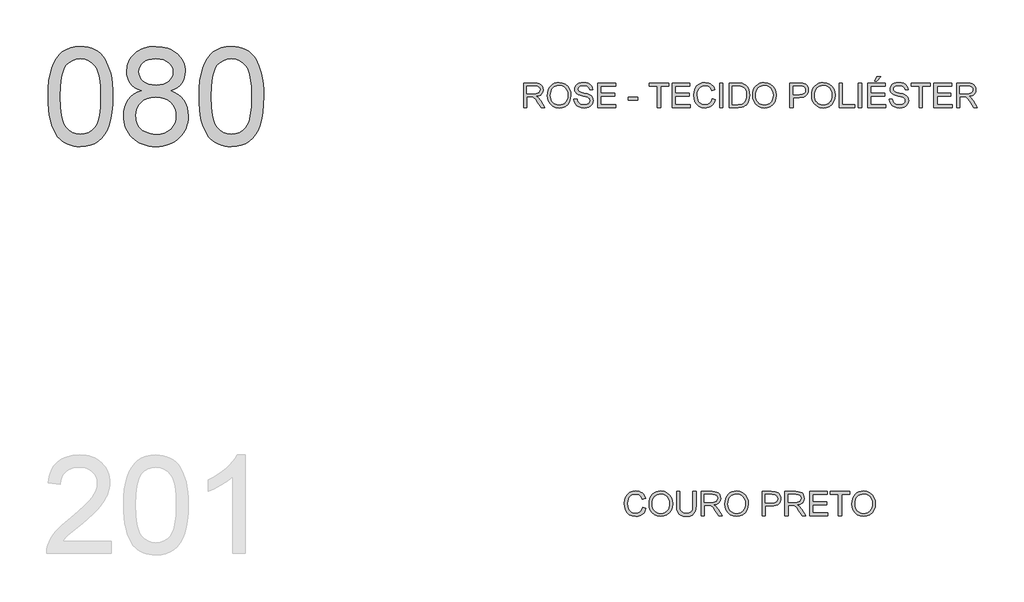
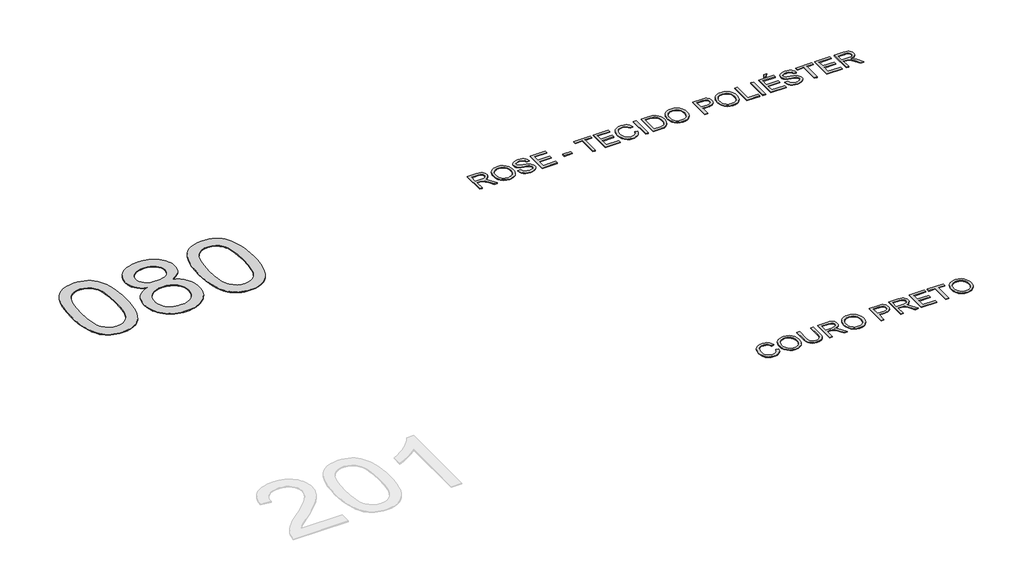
# One storey, part 4 of 39: 3 proxies.
"""IFC4 building model written with IfcOpenShell, lengths in millimetres."""

from ifc_helpers import new_model, si_unit, origin, origin_with_axes, place, context, project, spatial, polyline, outline, extrude, element, save

model = new_model("IFC4")

# Units and contexts
model_context = context("Model", 3, world=origin())
ifc_project = project(units=[si_unit("LENGTHUNIT", "METRE", prefix="MILLI")], contexts=[model_context])

# Site, building, storey
site = spatial("IfcSite", under=ifc_project)
building = spatial("IfcBuilding", under=site)
storey = spatial("IfcBuildingStorey", under=building, Name="Marelli - Linha PROFIT - Planta Baixa", Elevation=0.0)

# Proxies
placement = place(None, origin())
element("IfcBuildingElementProxy", 1, Name="1200mm Arial", ObjectType="1200mm Arial", at=placement, inside=storey, context=model_context, shape_type="SweptSolid", body=[
    extrude(outline(polyline([(-25181.1313792, -139395.792664), (-25178.3630672, -139294.4319773), (-25170.0581311, -139202.8385576), (-25156.2165711, -139121.0124048), (-25136.838387, -139048.953519), (-25112.0063523, -138986.073289), (-25081.8032405, -138931.7831035), (-25046.2290516, -138886.0829627), (-25005.2837855, -138848.9728664), (-24958.8294866, -138820.2596767), (-24906.728199, -138799.7502555), (-24848.9799228, -138787.4446027), (-24785.584658, -138783.3427185), (-24737.9439396, -138785.7707396), (-24692.7312424, -138793.0548031), (-24649.9465664, -138805.194909), (-24609.5899115, -138822.1910572), (-24572.6361651, -138843.7581391), (-24540.0602144, -138869.6110463), (-24511.8620595, -138899.7497788), (-24488.0417003, -138934.1743365), (-24467.4035204, -138972.7467637), (-24448.7519032, -139015.3291046), (-24417.4083572, -139112.5235278), (-24405.4337983, -139169.6831928), (-24396.8805419, -139235.9479371), (-24391.7485881, -139311.3177609), (-24390.0379368, -139395.792664), (-24392.7786576, -139496.5095573), (-24401.0008202, -139587.6431245), (-24414.7044246, -139669.1933658), (-24433.8894706, -139741.1602811), (-24458.5283672, -139804.0681023), (-24488.5935233, -139858.4410612), (-24524.0849388, -139904.2791578), (-24565.0026137, -139941.5823921), (-24611.5120949, -139970.4887199), (-24663.7789294, -139991.1360968), (-24721.8031171, -140003.524523), (-24785.584658, -140007.6539984), (-24828.2589694, -140005.8605737), (-24868.5788361, -140000.4802995), (-24906.544258, -139991.5131759), (-24942.1552351, -139978.9592028), (-24975.4117675, -139962.8183803), (-25006.3138551, -139943.0907083), (-25034.8614979, -139919.7761868), (-25061.054696, -139892.8748159), (-25089.1976686, -139850.2786794), (-25113.5882449, -139802.0999336), (-25134.2264248, -139748.3385785), (-25151.1122084, -139688.9946142), (-25164.2455956, -139624.0680406), (-25173.6265865, -139553.5588577), (-25179.255181, -139477.4670655), (-25181.1313792, -139395.792664)]), holes=[polyline([(-25030.446914, -139395.4983584), (-25026.03233, -139526.4919399), (-25012.7885782, -139632.5247279), (-25002.8557643, -139676.1808245), (-24990.7156585, -139713.5967226), (-24976.3682607, -139744.7724225), (-24959.8135709, -139769.7079239), (-24922.4367602, -139807.884878), (-24880.9396711, -139835.1541309), (-24835.3223037, -139851.5156826), (-24785.584658, -139856.9695332), (-24735.8470122, -139851.4972885), (-24690.2296448, -139835.0805545), (-24648.7325558, -139807.7193311), (-24611.3557451, -139769.4136183), (-24594.8010553, -139744.418336), (-24580.4536575, -139713.2104465), (-24568.3135516, -139675.7899498), (-24558.3807378, -139632.1568459), (-24545.1369859, -139526.2528166), (-24540.722402, -139395.4983584), (-24544.9898331, -139267.9720648), (-24557.7921266, -139163.8062779), (-24567.3938467, -139120.4835744), (-24579.1292823, -139083.0009976), (-24592.9984335, -139051.3585475), (-24609.0013003, -139025.5562241), (-24645.7527116, -138985.5122689), (-24687.7280473, -138956.9094438), (-24734.9273073, -138939.7477487), (-24787.3504916, -138934.0271837), (-24836.8306199, -138939.067167), (-24881.6754351, -138954.187117), (-24921.8849372, -138979.3870337), (-24957.4591261, -139014.666917), (-24974.5656389, -139043.2145599), (-24989.3912833, -139077.2068562), (-25001.9360594, -139116.6438061), (-25012.199967, -139161.5254095), (-25025.8851772, -139267.6225769), (-25030.446914, -139395.4983584)])]), origin_with_axes(), (0.0, 0.0, 1.0), 10.0),
    extrude(outline(polyline([(-24038.637055, -139324.8650154), (-24081.9827511, -139306.7652212), (-24119.3135765, -139285.1337599), (-24150.6295314, -139259.9706314), (-24175.9306156, -139231.2758358), (-24195.4375584, -139199.3252845), (-24209.3710889, -139164.3948891), (-24217.7312073, -139126.4846495), (-24220.5179134, -139085.5945657), (-24214.4478605, -139024.1398784), (-24206.8602943, -138995.3301197), (-24196.2377017, -138967.7987509), (-24182.5800826, -138941.545772), (-24165.8874371, -138916.571183), (-24123.3970667, -138870.4571749), (-24098.109778, -138850.0397242), (-24070.8083355, -138832.3446002), (-24041.492739, -138817.371803), (-24010.1629886, -138805.1213326), (-23941.461026, -138788.787372), (-23864.7024477, -138783.3427185), (-23787.5759874, -138788.9161307), (-23718.35899, -138805.6363674), (-23686.7165399, -138818.1765449), (-23657.0514555, -138833.5034285), (-23629.3637368, -138851.6170182), (-23603.6533839, -138872.5173141), (-23560.3904613, -138919.5326331), (-23543.3943131, -138944.8613085), (-23529.4883737, -138971.4039944), (-23518.672643, -138999.1606909), (-23510.9471211, -139028.1313981), (-23506.311808, -139058.3161158), (-23504.7667036, -139089.7148441), (-23507.5166215, -139129.160991), (-23515.7663752, -139165.9767817), (-23529.5159648, -139200.1622161), (-23548.7653902, -139231.7172942), (-23573.6066219, -139260.2189518), (-23604.1316305, -139285.2441245), (-23640.3404159, -139306.7928124), (-23682.2329781, -139324.8650154), (-23632.7068645, -139345.9354566), (-23589.4899271, -139372.6528865), (-23552.5821659, -139405.0173051), (-23521.983581, -139443.0287122), (-23497.9700837, -139485.8409794), (-23480.8175857, -139532.607978), (-23470.5260869, -139583.3297081), (-23467.0955873, -139638.0061697), (-23468.7970415, -139676.3670647), (-23473.9014042, -139713.1644613), (-23482.4086753, -139748.3983594), (-23494.3188549, -139782.068759), (-23509.631943, -139814.1756601), (-23528.3479395, -139844.7190628), (-23550.4668444, -139873.6989669), (-23575.9886578, -139901.1153726), (-23604.2879803, -139926.085363), (-23634.7394125, -139947.7260214), (-23667.3429543, -139966.0373477), (-23702.0986058, -139981.019342), (-23739.006367, -139992.6720042), (-23778.0662378, -140000.9953343), (-23819.2782183, -140005.9893324), (-23862.6423085, -140007.6539984), (-23906.0063987, -140005.9824346), (-23947.2183792, -140000.9677432), (-23986.27825, -139992.6099241), (-24023.1860112, -139980.9089774), (-24057.9416627, -139965.864903), (-24090.5452045, -139947.4777011), (-24120.9966367, -139925.7473715), (-24149.2959591, -139900.6739142), (-24174.8177725, -139873.1034579), (-24196.9366775, -139843.8821312), (-24215.652674, -139813.009934), (-24230.9657621, -139780.4868664), (-24242.8759417, -139746.3129283), (-24251.3832128, -139710.4881198), (-24256.4875755, -139673.0124408), (-24258.1890297, -139633.8858913), (-24254.6205744, -139576.7170293), (-24243.9152083, -139524.4042096), (-24226.0729315, -139476.9474322), (-24201.0937441, -139434.3466971), (-24169.5294689, -139397.3745566), (-24131.931929, -139366.8035628), (-24088.3011243, -139342.6337157), (-24038.637055, -139324.8650154)]), holes=[polyline([(-24069.8334482, -139090.0091496), (-24066.4949191, -139124.553269), (-24056.4793317, -139155.7864504), (-24039.7866862, -139183.7086938), (-24016.4169825, -139208.3199993), (-23986.6645261, -139228.4063562), (-23950.8236227, -139242.753754), (-23908.8942723, -139251.3621927), (-23860.8764749, -139254.2316723), (-23814.0450969, -139251.3805868), (-23773.0262545, -139242.8273304), (-23737.8199475, -139228.5719031), (-23708.4261761, -139208.6143049), (-23685.2496104, -139184.5180342), (-23668.6949206, -139157.8465896), (-23658.7621068, -139128.5999709), (-23655.4511688, -139096.7781784), (-23658.8724714, -139063.714784), (-23669.136379, -139033.3921106), (-23686.2428918, -139005.810158), (-23710.1920097, -138980.9689263), (-23740.2479687, -138960.4319139), (-23775.6750048, -138945.7626193), (-23816.4731181, -138936.9610426), (-23862.6423085, -138934.0271837), (-23909.1701838, -138936.8966633), (-23950.1614351, -138945.5051019), (-23985.6160624, -138959.8524998), (-24015.5340657, -138979.9388567), (-24039.2900455, -139004.0351274), (-24056.2586026, -139030.4122664), (-24066.4397368, -139059.0702739), (-24069.8334482, -139090.0091496)]), polyline([(-24107.5045645, -139628.5883906), (-24105.931869, -139657.6418712), (-24101.2137824, -139686.2354992), (-24082.341436, -139742.0431979), (-24067.3410477, -139767.9328933), (-24047.5030111, -139790.7139859), (-24022.8273262, -139810.3864756), (-23993.3139932, -139826.9503624), (-23961.1243186, -139840.0837496), (-23928.4196092, -139849.4647405), (-23895.1998651, -139855.093335), (-23861.4650861, -139856.9695332), (-23806.9817626, -139853.0239988), (-23758.8995859, -139841.1873956), (-23717.2185558, -139821.4597236), (-23681.9386725, -139793.8409828), (-23653.8692762, -139760.133795), (-23633.8197075, -139722.140782), (-23621.7899662, -139679.8619437), (-23617.7800525, -139633.2972801), (-23621.9187249, -139585.9876555), (-23634.3347423, -139542.9454621), (-23655.0281045, -139504.1706998), (-23683.9988116, -139469.6633687), (-23720.2351882, -139441.336455), (-23762.7255586, -139421.1029453), (-23811.469923, -139408.9628395), (-23866.4682812, -139404.9161375), (-23920.1514614, -139408.9076572), (-23967.5990417, -139420.8822161), (-24008.8110222, -139440.8398143), (-24043.7874029, -139468.7804519), (-24071.6636611, -139502.7175659), (-24091.5752741, -139540.6645937), (-24103.5222419, -139582.6215353), (-24107.5045645, -139628.5883906)])]), origin_with_axes(), (0.0, 0.0, 1.0), 10.0),
    extrude(outline(polyline([(-23335.2466802, -139395.792664), (-23332.4783682, -139294.4319773), (-23324.1734322, -139202.8385576), (-23310.3318721, -139121.0124048), (-23290.953688, -139048.953519), (-23266.1216533, -138986.073289), (-23235.9185415, -138931.7831035), (-23200.3443526, -138886.0829627), (-23159.3990865, -138848.9728664), (-23112.9447876, -138820.2596767), (-23060.8435, -138799.7502555), (-23003.0952238, -138787.4446027), (-22939.699959, -138783.3427185), (-22892.0592406, -138785.7707396), (-22846.8465434, -138793.0548031), (-22804.0618674, -138805.194909), (-22763.7052125, -138822.1910572), (-22726.7514661, -138843.7581391), (-22694.1755154, -138869.6110463), (-22665.9773605, -138899.7497788), (-22642.1570013, -138934.1743365), (-22621.5188214, -138972.7467637), (-22602.8672042, -139015.3291046), (-22571.5236582, -139112.5235278), (-22559.5490993, -139169.6831928), (-22550.9958429, -139235.9479371), (-22545.8638891, -139311.3177609), (-22544.1532378, -139395.792664), (-22546.8939586, -139496.5095573), (-22555.1161212, -139587.6431245), (-22568.8197256, -139669.1933658), (-22588.0047716, -139741.1602811), (-22612.6436682, -139804.0681023), (-22642.7088243, -139858.4410612), (-22678.2002398, -139904.2791578), (-22719.1179147, -139941.5823921), (-22765.6273959, -139970.4887199), (-22817.8942304, -139991.1360968), (-22875.9184181, -140003.524523), (-22939.699959, -140007.6539984), (-22982.3742704, -140005.8605737), (-23022.6941371, -140000.4802995), (-23060.659559, -139991.5131759), (-23096.2705361, -139978.9592028), (-23129.5270685, -139962.8183803), (-23160.4291561, -139943.0907083), (-23188.9767989, -139919.7761868), (-23215.169997, -139892.8748159), (-23243.3129696, -139850.2786794), (-23267.7035459, -139802.0999336), (-23288.3417258, -139748.3385785), (-23305.2275094, -139688.9946142), (-23318.3608966, -139624.0680406), (-23327.7418875, -139553.5588577), (-23333.370482, -139477.4670655), (-23335.2466802, -139395.792664)]), holes=[polyline([(-23184.562215, -139395.4983584), (-23180.147631, -139526.4919399), (-23166.9038792, -139632.5247279), (-23156.9710653, -139676.1808245), (-23144.8309595, -139713.5967226), (-23130.4835617, -139744.7724225), (-23113.9288719, -139769.7079239), (-23076.5520612, -139807.884878), (-23035.0549721, -139835.1541309), (-22989.4376047, -139851.5156826), (-22939.699959, -139856.9695332), (-22889.9623132, -139851.4972885), (-22844.3449458, -139835.0805545), (-22802.8478568, -139807.7193311), (-22765.4710461, -139769.4136183), (-22748.9163563, -139744.418336), (-22734.5689585, -139713.2104465), (-22722.4288526, -139675.7899498), (-22712.4960388, -139632.1568459), (-22699.2522869, -139526.2528166), (-22694.837703, -139395.4983584), (-22699.1051341, -139267.9720648), (-22711.9074276, -139163.8062779), (-22721.5091477, -139120.4835744), (-22733.2445833, -139083.0009976), (-22747.1137345, -139051.3585475), (-22763.1166013, -139025.5562241), (-22799.8680126, -138985.5122689), (-22841.8433483, -138956.9094438), (-22889.0426083, -138939.7477487), (-22941.4657926, -138934.0271837), (-22990.9459209, -138939.067167), (-23035.7907361, -138954.187117), (-23076.0002382, -138979.3870337), (-23111.5744271, -139014.666917), (-23128.6809399, -139043.2145599), (-23143.5065843, -139077.2068562), (-23156.0513604, -139116.6438061), (-23166.315268, -139161.5254095), (-23180.0004782, -139267.6225769), (-23184.562215, -139395.4983584)])]), origin_with_axes(), (0.0, 0.0, 1.0), 10.0),
])
element("IfcBuildingElementProxy", 2, Name="300mm Arial", ObjectType="300mm Arial", at=placement, inside=storey, context=model_context, shape_type="SweptSolid", body=[
    extrude(outline(polyline([(-19362.2049444, -139530.5663201), (-19362.2049444, -139229.1973896), (-19232.3426001, -139229.1973896), (-19197.4397958, -139231.2299376), (-19172.0467411, -139237.3275817), (-19153.4870944, -139248.5847708), (-19139.0845143, -139266.0959537), (-19129.8414792, -139287.8101885), (-19126.7604675, -139311.6765329), (-19131.8648301, -139341.3646099), (-19147.1779182, -139365.9759154), (-19158.7776973, -139376.0052983), (-19173.1595841, -139384.0205273), (-19210.2696804, -139394.0085235), (-19188.8589482, -139410.1217548), (-19158.3247426, -139448.8965171), (-19108.0720621, -139530.5663201), (-19151.8500195, -139530.5663201), (-19191.0662402, -139468.0999573), (-19219.3931538, -139426.750021), (-19239.2955698, -139407.2154871), (-19257.2114229, -139400.0417882), (-19279.0636135, -139398.717413), (-19324.5338281, -139398.717413), (-19324.5338281, -139530.5663201), (-19362.2049444, -139530.5663201)]), holes=[polyline([(-19324.5338281, -139361.0462967), (-19240.2152748, -139361.0462967), (-19215.9994424, -139359.7127245), (-19197.2098695, -139355.7120078), (-19183.0648068, -139348.7774322), (-19172.782505, -139338.6422832), (-19166.5193141, -139326.3826157), (-19164.4315838, -139313.0744845), (-19168.4139064, -139294.6987789), (-19180.3608741, -139279.8915286), (-19200.9162806, -139270.1242616), (-19230.7239193, -139266.8685059), (-19324.5338281, -139266.8685059), (-19324.5338281, -139361.0462967)])]), origin_with_axes(), (0.0, 0.0, 1.0), 10.0),
    extrude(outline(polyline([(-19074.9626825, -139383.8549804), (-19072.4518879, -139348.5061192), (-19064.9195041, -139317.213157), (-19052.365531, -139289.9760937), (-19034.7899687, -139266.7949295), (-19013.2458793, -139248.2858666), (-18988.7863252, -139235.0651074), (-18961.4113062, -139227.1326519), (-18931.1208224, -139224.4885001), (-18891.591902, -139229.454907), (-18856.1464718, -139244.3541278), (-18826.7159122, -139268.1376988), (-18805.2316037, -139299.7571563), (-18792.0982164, -139337.68579), (-18787.7204207, -139380.3968896), (-18792.3281427, -139423.6782064), (-18806.1513087, -139462.140269), (-18828.4265635, -139493.8149087), (-18858.390552, -139516.733957), (-18893.5324796, -139530.6398965), (-18931.3415516, -139535.2752096), (-18971.4774773, -139530.1524528), (-19007.1252426, -139514.7841825), (-19036.4822258, -139490.5591531), (-19057.7458052, -139458.8661192), (-19070.6584632, -139422.3998164), (-19074.9626825, -139383.8549804)]), holes=[polyline([(-19037.2915662, -139384.2228624), (-19035.4084703, -139409.1974513), (-19029.7591824, -139431.3669401), (-19020.3437026, -139450.7313286), (-19007.1620308, -139467.2906169), (-18991.1384707, -139480.5527628), (-18973.1973256, -139490.0257242), (-18953.3385957, -139495.709501), (-18931.5622808, -139497.6040933), (-18909.4134854, -139495.6911069), (-18889.3202307, -139489.9521478), (-18871.2825166, -139480.3872159), (-18855.3003432, -139466.9963113), (-18842.2152405, -139450.0875351), (-18832.8687386, -139429.9689885), (-18827.2608374, -139406.6406715), (-18825.391537, -139380.102584), (-18828.5921104, -139346.7540812), (-18838.1938304, -139317.9305269), (-18853.9483769, -139294.358488), (-18875.6074293, -139276.7645316), (-18901.7362481, -139265.8108452), (-18930.9000932, -139262.1596164), (-18951.9199507, -139263.9185522), (-18971.422295, -139269.1953595), (-18989.407126, -139277.9900385), (-19005.8744438, -139290.302589), (-19019.6194349, -139306.7262208), (-19029.4372856, -139327.8541437), (-19035.3279961, -139353.6863575), (-19037.2915662, -139384.2228624)])]), origin_with_axes(), (0.0, 0.0, 1.0), 10.0),
    extrude(outline(polyline([(-18750.0493044, -139426.9707502), (-18712.3781881, -139426.9707502), (-18708.0555746, -139447.8756446), (-18700.2380822, -139464.6786547), (-18688.0427941, -139478.0143771), (-18670.5867934, -139488.517408), (-18649.2496377, -139495.332422), (-18625.4108844, -139497.6040933), (-18604.4232166, -139495.884245), (-18586.0475109, -139490.7247), (-18571.1574872, -139482.5577197), (-18560.6268651, -139471.8155654), (-18554.3636741, -139459.4823215), (-18552.2759438, -139446.5420724), (-18553.8394423, -139433.932917), (-18558.5299377, -139423.0344129), (-18568.0580814, -139413.7361954), (-18584.1345246, -139405.9279001), (-18638.98573, -139391.5437141), (-18674.9921803, -139382.0247675), (-18698.0307903, -139372.9656733), (-18716.783575, -139360.2921386), (-18730.0733121, -139344.9330653), (-18737.991972, -139327.2195472), (-18740.6315253, -139307.4826782), (-18737.3665726, -139285.4189555), (-18727.5717145, -139264.845155), (-18711.5044683, -139247.4075484), (-18689.4223516, -139234.7524077), (-18662.9164538, -139227.054477), (-18633.5778647, -139224.4885001), (-18601.7928603, -139227.1740386), (-18573.9809815, -139235.2306543), (-18551.1355096, -139248.4928003), (-18534.249726, -139266.7949295), (-18523.5627541, -139288.9966079), (-18519.313717, -139313.9574013), (-18556.9848333, -139313.9574013), (-18563.9010148, -139291.4798114), (-18578.321989, -139275.2562154), (-18600.8547612, -139265.4337661), (-18632.1063367, -139262.1596164), (-18664.0936762, -139265.3969779), (-18686.0378372, -139275.1090626), (-18698.7297661, -139289.4012781), (-18702.960409, -139306.3790322), (-18699.9621707, -139320.8551887), (-18690.967456, -139332.4986539), (-18669.7038766, -139342.9097143), (-18629.4575864, -139353.541504), (-18587.9237091, -139363.6398648), (-18562.7973688, -139372.4506385), (-18541.3222574, -139386.1174547), (-18526.3402631, -139402.9848441), (-18517.5386864, -139422.868866), (-18514.6048275, -139445.5855792), (-18517.9801448, -139468.8081301), (-18528.1060967, -139490.6511236), (-18544.568816, -139509.4498935), (-18566.9544354, -139523.539774), (-18593.8742004, -139532.3413507), (-18623.9393564, -139535.2752096), (-18660.8471176, -139532.1114244), (-18691.2249734, -139522.620069), (-18715.4224116, -139506.764355), (-18733.7889202, -139484.5074943), (-18745.5795381, -139457.3945912), (-18750.0493044, -139426.9707502)])), origin_with_axes(), (0.0, 0.0, 1.0), 10.0),
    extrude(outline(polyline([(-18458.098153, -139530.5663201), (-18458.098153, -139229.1973896), (-18241.4892343, -139229.1973896), (-18241.4892343, -139266.8685059), (-18420.4270367, -139266.8685059), (-18420.4270367, -139356.3374072), (-18250.9070133, -139356.3374072), (-18250.9070133, -139394.0085235), (-18420.4270367, -139394.0085235), (-18420.4270367, -139492.8952038), (-18236.7803447, -139492.8952038), (-18236.7803447, -139530.5663201), (-18458.098153, -139530.5663201)])), origin_with_axes(), (0.0, 0.0, 1.0), 10.0),
    extrude(outline(polyline([(-18086.0958795, -139441.0974188), (-18086.0958795, -139403.4263025), (-17968.373641, -139403.4263025), (-17968.373641, -139441.0974188), (-18086.0958795, -139441.0974188)])), origin_with_axes(), (0.0, 0.0, 1.0), 10.0),
    extrude(outline(polyline([(-17728.2202746, -139530.5663201), (-17728.2202746, -139266.8685059), (-17827.1069549, -139266.8685059), (-17827.1069549, -139229.1973896), (-17591.662478, -139229.1973896), (-17591.662478, -139266.8685059), (-17690.5491583, -139266.8685059), (-17690.5491583, -139530.5663201), (-17728.2202746, -139530.5663201)])), origin_with_axes(), (0.0, 0.0, 1.0), 10.0),
    extrude(outline(polyline([(-17549.2824721, -139530.5663201), (-17549.2824721, -139229.1973896), (-17332.6735534, -139229.1973896), (-17332.6735534, -139266.8685059), (-17511.6113558, -139266.8685059), (-17511.6113558, -139356.3374072), (-17342.0913324, -139356.3374072), (-17342.0913324, -139394.0085235), (-17511.6113558, -139394.0085235), (-17511.6113558, -139492.8952038), (-17327.9646638, -139492.8952038), (-17327.9646638, -139530.5663201), (-17549.2824721, -139530.5663201)])), origin_with_axes(), (0.0, 0.0, 1.0), 10.0),
    extrude(outline(polyline([(-17059.5579602, -139423.4390831), (-17021.8868438, -139433.1511677), (-17029.3410528, -139456.5783531), (-17039.2692681, -139477.0486868), (-17051.6714899, -139494.5621691), (-17066.5477181, -139509.1187997), (-17083.5622603, -139520.5622291), (-17102.3794244, -139528.7361071), (-17122.9992102, -139533.640434), (-17145.4216178, -139535.2752096), (-17189.1168018, -139530.3271968), (-17223.817271, -139515.4831583), (-17250.4151393, -139491.2581289), (-17269.8025204, -139458.1671434), (-17281.6391236, -139419.2636224), (-17285.584658, -139377.6009865), (-17281.1240888, -139333.6574821), (-17267.7423812, -139295.7104543), (-17246.1385111, -139264.9647166), (-17217.0114541, -139242.6250824), (-17182.4673347, -139229.0226457), (-17144.6122774, -139224.4885001), (-17103.3083264, -139230.3562179), (-17085.3395902, -139237.6908652), (-17069.1596802, -139247.9593714), (-17055.0353109, -139260.8904235), (-17043.2331966, -139276.2127086), (-17026.5957334, -139314.0309777), (-17064.2668497, -139323.0072984), (-17077.3266605, -139295.5357104), (-17095.1689373, -139276.6909552), (-17118.0144092, -139265.7924511), (-17146.0838054, -139262.1596164), (-17178.4390269, -139266.1879242), (-17205.018501, -139278.2728478), (-17225.1876314, -139297.1451941), (-17238.3118216, -139321.5357704), (-17245.5131117, -139349.1085259), (-17247.9135417, -139377.5274101), (-17245.0716533, -139412.3290468), (-17236.545988, -139442.421794), (-17222.0146492, -139466.6560205), (-17201.1557401, -139483.8820949), (-17176.1489615, -139494.1735937), (-17149.1740142, -139497.6040933), (-17117.7293006, -139492.931992), (-17091.5269055, -139478.9156879), (-17071.7440512, -139455.702334), (-17059.5579602, -139423.4390831)])), origin_with_axes(), (0.0, 0.0, 1.0), 10.0),
    extrude(outline(polyline([(-16965.3801694, -139530.5663201), (-16965.3801694, -139229.1973896), (-16927.7090531, -139229.1973896), (-16927.7090531, -139530.5663201), (-16965.3801694, -139530.5663201)])), origin_with_axes(), (0.0, 0.0, 1.0), 10.0),
    extrude(outline(polyline([(-16852.3668205, -139530.5663201), (-16852.3668205, -139229.1973896), (-16748.4033686, -139229.1973896), (-16694.6190209, -139233.5383972), (-16670.5963267, -139241.9077126), (-16650.3260287, -139255.0962821), (-16629.4855137, -139278.0521186), (-16614.6414752, -139306.5997614), (-16605.757125, -139340.1873876), (-16602.7956749, -139378.2631741), (-16604.8006318, -139410.6091985), (-16610.8155024, -139439.0740679), (-16619.9757641, -139463.3082943), (-16631.4168942, -139482.9623899), (-16644.5870696, -139498.477813), (-16658.9344674, -139510.2960221), (-16675.4063837, -139519.0608107), (-16694.9501147, -139525.4159721), (-16743.4001735, -139530.5663201), (-16852.3668205, -139530.5663201)]), holes=[polyline([(-16814.6957042, -139492.8952038), (-16748.0354866, -139492.8952038), (-16720.4627311, -139491.5340404), (-16699.5486397, -139487.4505502), (-16683.7665021, -139480.8838566), (-16671.589608, -139472.0730828), (-16658.5022061, -139455.7667134), (-16648.6705597, -139434.6594839), (-16642.5177334, -139408.6594239), (-16640.4667912, -139377.6745629), (-16644.485902, -139336.6189322), (-16656.5432344, -139306.3054558), (-16674.3579201, -139285.4833349), (-16695.6490905, -139272.9017706), (-16717.31734, -139268.3768221), (-16749.0655562, -139266.8685059), (-16814.6957042, -139266.8685059), (-16814.6957042, -139492.8952038)])]), origin_with_axes(), (0.0, 0.0, 1.0), 10.0),
    extrude(outline(polyline([(-16565.1245586, -139383.8549804), (-16562.613764, -139348.5061192), (-16555.0813802, -139317.213157), (-16542.5274071, -139289.9760937), (-16524.9518448, -139266.7949295), (-16503.4077554, -139248.2858666), (-16478.9482013, -139235.0651074), (-16451.5731823, -139227.1326519), (-16421.2826985, -139224.4885001), (-16381.7537781, -139229.454907), (-16346.3083479, -139244.3541278), (-16316.8777883, -139268.1376988), (-16295.3934798, -139299.7571563), (-16282.2600925, -139337.68579), (-16277.8822968, -139380.3968896), (-16282.4900188, -139423.6782064), (-16296.3131848, -139462.140269), (-16318.5884396, -139493.8149087), (-16348.5524281, -139516.733957), (-16383.6943557, -139530.6398965), (-16421.5034277, -139535.2752096), (-16461.6393534, -139530.1524528), (-16497.2871187, -139514.7841825), (-16526.6441019, -139490.5591531), (-16547.9076813, -139458.8661192), (-16560.8203393, -139422.3998164), (-16565.1245586, -139383.8549804)]), holes=[polyline([(-16527.4534423, -139384.2228624), (-16525.5703464, -139409.1974513), (-16519.9210585, -139431.3669401), (-16510.5055787, -139450.7313286), (-16497.3239069, -139467.2906169), (-16481.3003468, -139480.5527628), (-16463.3592017, -139490.0257242), (-16443.5004718, -139495.709501), (-16421.7241569, -139497.6040933), (-16399.5753615, -139495.6911069), (-16379.4821068, -139489.9521478), (-16361.4443927, -139480.3872159), (-16345.4622193, -139466.9963113), (-16332.3771166, -139450.0875351), (-16323.0306147, -139429.9689885), (-16317.4227135, -139406.6406715), (-16315.5534131, -139380.102584), (-16318.7539865, -139346.7540812), (-16328.3557065, -139317.9305269), (-16344.110253, -139294.358488), (-16365.7693054, -139276.7645316), (-16391.8981242, -139265.8108452), (-16421.0619693, -139262.1596164), (-16442.0818268, -139263.9185522), (-16461.5841711, -139269.1953595), (-16479.5690021, -139277.9900385), (-16496.0363199, -139290.302589), (-16509.781311, -139306.7262208), (-16519.5991617, -139327.8541437), (-16525.4898722, -139353.6863575), (-16527.4534423, -139384.2228624)])]), origin_with_axes(), (0.0, 0.0, 1.0), 10.0),
    extrude(outline(polyline([(-16108.3622734, -139530.5663201), (-16108.3622734, -139229.1973896), (-15996.6732997, -139229.1973896), (-15951.6445435, -139232.0668692), (-15931.5673836, -139237.4287493), (-15915.040285, -139246.1567496), (-15901.7321538, -139258.6463433), (-15891.3118963, -139275.2930036), (-15884.5796558, -139294.9287051), (-15882.3355756, -139316.3854225), (-15883.8507896, -139334.8852883), (-15888.3964315, -139351.9044291), (-15895.9725013, -139367.4428449), (-15906.5789991, -139381.5005356), (-15921.1402283, -139393.1531978), (-15940.5804925, -139401.476528), (-15964.8997916, -139406.470526), (-15994.0981257, -139408.1351921), (-16070.6911571, -139408.1351921), (-16070.6911571, -139530.5663201), (-16108.3622734, -139530.5663201)]), holes=[polyline([(-16070.6911571, -139370.4640758), (-15991.8908338, -139370.4640758), (-15958.4871486, -139367.005985), (-15936.4142289, -139356.6317127), (-15924.1085761, -139339.9850525), (-15920.0066919, -139317.7097977), (-15922.425516, -139300.7872259), (-15929.6819884, -139286.5134045), (-15940.8747981, -139275.7712502), (-15955.1026342, -139269.4436799), (-15992.7737505, -139266.8685059), (-16070.6911571, -139266.8685059), (-16070.6911571, -139370.4640758)])]), origin_with_axes(), (0.0, 0.0, 1.0), 10.0),
    extrude(outline(polyline([(-15844.6644593, -139383.8549804), (-15842.1536647, -139348.5061192), (-15834.6212808, -139317.213157), (-15822.0673077, -139289.9760937), (-15804.4917454, -139266.7949295), (-15782.9476561, -139248.2858666), (-15758.4881019, -139235.0651074), (-15731.1130829, -139227.1326519), (-15700.8225992, -139224.4885001), (-15661.2936788, -139229.454907), (-15625.8482486, -139244.3541278), (-15596.4176889, -139268.1376988), (-15574.9333804, -139299.7571563), (-15561.7999932, -139337.68579), (-15557.4221974, -139380.3968896), (-15562.0299194, -139423.6782064), (-15575.8530854, -139462.140269), (-15598.1283402, -139493.8149087), (-15628.0923287, -139516.733957), (-15663.2342563, -139530.6398965), (-15701.0433284, -139535.2752096), (-15741.179254, -139530.1524528), (-15776.8270194, -139514.7841825), (-15806.1840026, -139490.5591531), (-15827.4475819, -139458.8661192), (-15840.3602399, -139422.3998164), (-15844.6644593, -139383.8549804)]), holes=[polyline([(-15806.993343, -139384.2228624), (-15805.110247, -139409.1974513), (-15799.4609591, -139431.3669401), (-15790.0454793, -139450.7313286), (-15776.8638076, -139467.2906169), (-15760.8402474, -139480.5527628), (-15742.8991024, -139490.0257242), (-15723.0403724, -139495.709501), (-15701.2640576, -139497.6040933), (-15679.1152622, -139495.6911069), (-15659.0220075, -139489.9521478), (-15640.9842934, -139480.3872159), (-15625.00212, -139466.9963113), (-15611.9170172, -139450.0875351), (-15602.5705153, -139429.9689885), (-15596.9626141, -139406.6406715), (-15595.0933138, -139380.102584), (-15598.2938871, -139346.7540812), (-15607.8956072, -139317.9305269), (-15623.6501536, -139294.358488), (-15645.3092061, -139276.7645316), (-15671.4380248, -139265.8108452), (-15700.60187, -139262.1596164), (-15721.6217275, -139263.9185522), (-15741.1240717, -139269.1953595), (-15759.1089028, -139277.9900385), (-15775.5762206, -139290.302589), (-15789.3212116, -139306.7262208), (-15799.1390624, -139327.8541437), (-15805.0297728, -139353.6863575), (-15806.993343, -139384.2228624)])]), origin_with_axes(), (0.0, 0.0, 1.0), 10.0),
    extrude(outline(polyline([(-15505.6244125, -139530.5663201), (-15505.6244125, -139229.1973896), (-15467.9532962, -139229.1973896), (-15467.9532962, -139492.8952038), (-15317.268831, -139492.8952038), (-15317.268831, -139530.5663201), (-15505.6244125, -139530.5663201)])), origin_with_axes(), (0.0, 0.0, 1.0), 10.0),
    extrude(outline(polyline([(-15270.1799356, -139530.5663201), (-15270.1799356, -139229.1973896), (-15232.5088193, -139229.1973896), (-15232.5088193, -139530.5663201), (-15270.1799356, -139530.5663201)])), origin_with_axes(), (0.0, 0.0, 1.0), 10.0),
    extrude(outline(polyline([(-15072.406575, -139210.3618315), (-15044.1532378, -139153.855157), (-14997.0643424, -139153.855157), (-15044.1532378, -139210.3618315), (-15072.406575, -139210.3618315)])), origin_with_axes(), (0.0, 0.0, 1.0), 10.0),
    extrude(outline(polyline([(-15157.1665867, -139530.5663201), (-15157.1665867, -139229.1973896), (-14940.5576679, -139229.1973896), (-14940.5576679, -139266.8685059), (-15119.4954704, -139266.8685059), (-15119.4954704, -139356.3374072), (-14949.975447, -139356.3374072), (-14949.975447, -139394.0085235), (-15119.4954704, -139394.0085235), (-15119.4954704, -139492.8952038), (-14935.8487784, -139492.8952038), (-14935.8487784, -139530.5663201), (-15157.1665867, -139530.5663201)])), origin_with_axes(), (0.0, 0.0, 1.0), 10.0),
    extrude(outline(polyline([(-14893.4687726, -139426.9707502), (-14855.7976562, -139426.9707502), (-14851.4750428, -139447.8756446), (-14843.6575504, -139464.6786547), (-14831.4622623, -139478.0143771), (-14814.0062616, -139488.517408), (-14792.6691059, -139495.332422), (-14768.8303526, -139497.6040933), (-14747.8426848, -139495.884245), (-14729.4669791, -139490.7247), (-14714.5769553, -139482.5577197), (-14704.0463332, -139471.8155654), (-14697.7831423, -139459.4823215), (-14695.6954119, -139446.5420724), (-14697.2589104, -139433.932917), (-14701.9494059, -139423.0344129), (-14711.4775495, -139413.7361954), (-14727.5539927, -139405.9279001), (-14782.4051982, -139391.5437141), (-14818.4116485, -139382.0247675), (-14841.4502584, -139372.9656733), (-14860.2030431, -139360.2921386), (-14873.4927802, -139344.9330653), (-14881.4114402, -139327.2195472), (-14884.0509935, -139307.4826782), (-14880.7860408, -139285.4189555), (-14870.9911826, -139264.845155), (-14854.9239365, -139247.4075484), (-14832.8418197, -139234.7524077), (-14806.335922, -139227.054477), (-14776.9973329, -139224.4885001), (-14745.2123285, -139227.1740386), (-14717.4004497, -139235.2306543), (-14694.5549778, -139248.4928003), (-14677.6691942, -139266.7949295), (-14666.9822222, -139288.9966079), (-14662.7331852, -139313.9574013), (-14700.4043015, -139313.9574013), (-14707.320483, -139291.4798114), (-14721.7414572, -139275.2562154), (-14744.2742294, -139265.4337661), (-14775.5258049, -139262.1596164), (-14807.5131444, -139265.3969779), (-14829.4573054, -139275.1090626), (-14842.1492342, -139289.4012781), (-14846.3798772, -139306.3790322), (-14843.3816389, -139320.8551887), (-14834.3869241, -139332.4986539), (-14813.1233448, -139342.9097143), (-14772.8770545, -139353.541504), (-14731.3431773, -139363.6398648), (-14706.216837, -139372.4506385), (-14684.7417255, -139386.1174547), (-14669.7597313, -139402.9848441), (-14660.9581546, -139422.868866), (-14658.0242956, -139445.5855792), (-14661.3996129, -139468.8081301), (-14671.5255649, -139490.6511236), (-14687.9882841, -139509.4498935), (-14710.3739036, -139523.539774), (-14737.2936686, -139532.3413507), (-14767.3588246, -139535.2752096), (-14804.2665858, -139532.1114244), (-14834.6444415, -139522.620069), (-14858.8418798, -139506.764355), (-14877.2083884, -139484.5074943), (-14888.9990063, -139457.3945912), (-14893.4687726, -139426.9707502)])), origin_with_axes(), (0.0, 0.0, 1.0), 10.0),
    extrude(outline(polyline([(-14526.1753886, -139530.5663201), (-14526.1753886, -139266.8685059), (-14625.0620689, -139266.8685059), (-14625.0620689, -139229.1973896), (-14389.617592, -139229.1973896), (-14389.617592, -139266.8685059), (-14488.5042723, -139266.8685059), (-14488.5042723, -139530.5663201), (-14526.1753886, -139530.5663201)])), origin_with_axes(), (0.0, 0.0, 1.0), 10.0),
    extrude(outline(polyline([(-14347.2375861, -139530.5663201), (-14347.2375861, -139229.1973896), (-14130.6286674, -139229.1973896), (-14130.6286674, -139266.8685059), (-14309.5664698, -139266.8685059), (-14309.5664698, -139356.3374072), (-14140.0464464, -139356.3374072), (-14140.0464464, -139394.0085235), (-14309.5664698, -139394.0085235), (-14309.5664698, -139492.8952038), (-14125.9197778, -139492.8952038), (-14125.9197778, -139530.5663201), (-14347.2375861, -139530.5663201)])), origin_with_axes(), (0.0, 0.0, 1.0), 10.0),
    extrude(outline(polyline([(-14069.4131034, -139530.5663201), (-14069.4131034, -139229.1973896), (-13939.5507591, -139229.1973896), (-13904.6479548, -139231.2299376), (-13879.2549, -139237.3275817), (-13860.6952534, -139248.5847708), (-13846.2926733, -139266.0959537), (-13837.0496382, -139287.8101885), (-13833.9686264, -139311.6765329), (-13839.0729891, -139341.3646099), (-13854.3860772, -139365.9759154), (-13865.9858563, -139376.0052983), (-13880.3677431, -139384.0205273), (-13917.4778393, -139394.0085235), (-13896.0671072, -139410.1217548), (-13865.5329016, -139448.8965171), (-13815.2802211, -139530.5663201), (-13859.0581785, -139530.5663201), (-13898.2743992, -139468.0999573), (-13926.6013128, -139426.750021), (-13946.5037288, -139407.2154871), (-13964.4195819, -139400.0417882), (-13986.2717724, -139398.717413), (-14031.7419871, -139398.717413), (-14031.7419871, -139530.5663201), (-14069.4131034, -139530.5663201)]), holes=[polyline([(-14031.7419871, -139361.0462967), (-13947.4234338, -139361.0462967), (-13923.2076014, -139359.7127245), (-13904.4180285, -139355.7120078), (-13890.2729658, -139348.7774322), (-13879.990664, -139338.6422832), (-13873.7274731, -139326.3826157), (-13871.6397427, -139313.0744845), (-13875.6220653, -139294.6987789), (-13887.5690331, -139279.8915286), (-13908.1244396, -139270.1242616), (-13937.9320783, -139266.8685059), (-14031.7419871, -139266.8685059), (-14031.7419871, -139361.0462967)])]), origin_with_axes(), (0.0, 0.0, 1.0), 10.0),
])
element("IfcBuildingElementProxy", 3, Name="300mm Arial", ObjectType="300mm Arial", at=placement, inside=storey, context=model_context, shape_type="SweptSolid", body=[
    extrude(outline(polyline([(-17907.158077, -144423.4390831), (-17869.4869607, -144433.1511677), (-17876.9411697, -144456.5783531), (-17886.869385, -144477.0486868), (-17899.2716068, -144494.5621691), (-17914.1478349, -144509.1187997), (-17931.1623772, -144520.5622291), (-17949.9795413, -144528.7361071), (-17970.5993271, -144533.640434), (-17993.0217347, -144535.2752096), (-18036.7169187, -144530.3271968), (-18071.4173879, -144515.4831583), (-18098.0152561, -144491.2581289), (-18117.4026373, -144458.1671434), (-18129.2392405, -144419.2636224), (-18133.1847749, -144377.6009865), (-18128.7242057, -144333.6574821), (-18115.3424981, -144295.7104543), (-18093.7386279, -144264.9647166), (-18064.611571, -144242.6250824), (-18030.0674516, -144229.0226457), (-17992.2123943, -144224.4885001), (-17950.9084433, -144230.3562179), (-17932.9397071, -144237.6908652), (-17916.7597971, -144247.9593714), (-17902.6354278, -144260.8904235), (-17890.8333135, -144276.2127086), (-17874.1958503, -144314.0309777), (-17911.8669666, -144323.0072984), (-17924.9267774, -144295.5357104), (-17942.7690542, -144276.6909552), (-17965.6145261, -144265.7924511), (-17993.6839223, -144262.1596164), (-18026.0391438, -144266.1879242), (-18052.6186179, -144278.2728478), (-18072.7877483, -144297.1451941), (-18085.9119385, -144321.5357704), (-18093.1132286, -144349.1085259), (-18095.5136586, -144377.5274101), (-18092.6717702, -144412.3290468), (-18084.1461049, -144442.421794), (-18069.6147661, -144466.6560205), (-18048.755857, -144483.8820949), (-18023.7490784, -144494.1735937), (-17996.7741311, -144497.6040933), (-17965.3294175, -144492.931992), (-17939.1270224, -144478.9156879), (-17919.3441681, -144455.702334), (-17907.158077, -144423.4390831)])), origin_with_axes(), (0.0, 0.0, 1.0), 10.0),
    extrude(outline(polyline([(-17831.8158444, -144383.8549804), (-17829.3050498, -144348.5061192), (-17821.772666, -144317.213157), (-17809.2186929, -144289.9760937), (-17791.6431306, -144266.7949295), (-17770.0990412, -144248.2858666), (-17745.6394871, -144235.0651074), (-17718.2644681, -144227.1326519), (-17687.9739843, -144224.4885001), (-17648.4450639, -144229.454907), (-17612.9996337, -144244.3541278), (-17583.5690741, -144268.1376988), (-17562.0847656, -144299.7571563), (-17548.9513783, -144337.68579), (-17544.5735826, -144380.3968896), (-17549.1813046, -144423.6782064), (-17563.0044706, -144462.140269), (-17585.2797254, -144493.8149087), (-17615.2437139, -144516.733957), (-17650.3856415, -144530.6398965), (-17688.1947135, -144535.2752096), (-17728.3306392, -144530.1524528), (-17763.9784045, -144514.7841825), (-17793.3353877, -144490.5591531), (-17814.5989671, -144458.8661192), (-17827.5116251, -144422.3998164), (-17831.8158444, -144383.8549804)]), holes=[polyline([(-17794.1447281, -144384.2228624), (-17792.2616322, -144409.1974513), (-17786.6123443, -144431.3669401), (-17777.1968645, -144450.7313286), (-17764.0151927, -144467.2906169), (-17747.9916326, -144480.5527628), (-17730.0504875, -144490.0257242), (-17710.1917576, -144495.709501), (-17688.4154427, -144497.6040933), (-17666.2666473, -144495.6911069), (-17646.1733926, -144489.9521478), (-17628.1356785, -144480.3872159), (-17612.1535051, -144466.9963113), (-17599.0684024, -144450.0875351), (-17589.7219005, -144429.9689885), (-17584.1139993, -144406.6406715), (-17582.2446989, -144380.102584), (-17585.4452723, -144346.7540812), (-17595.0469923, -144317.9305269), (-17610.8015388, -144294.358488), (-17632.4605912, -144276.7645316), (-17658.5894099, -144265.8108452), (-17687.7532551, -144262.1596164), (-17708.7731126, -144263.9185522), (-17728.2754569, -144269.1953595), (-17746.2602879, -144277.9900385), (-17762.7276057, -144290.302589), (-17776.4725968, -144306.7262208), (-17786.2904475, -144327.8541437), (-17792.181158, -144353.6863575), (-17794.1447281, -144384.2228624)])]), origin_with_axes(), (0.0, 0.0, 1.0), 10.0),
    extrude(outline(polyline([(-17295.0024371, -144229.1973896), (-17257.3313208, -144229.1973896), (-17257.3313208, -144403.0584205), (-17259.8881006, -144443.7737604), (-17267.5584402, -144475.1265034), (-17281.8874439, -144499.3147446), (-17304.4202161, -144518.5365788), (-17335.2119391, -144531.0905519), (-17374.3177952, -144535.2752096), (-17412.5683257, -144531.6331779), (-17443.1485165, -144520.7070826), (-17466.0675648, -144502.8740029), (-17481.3346676, -144478.5110178), (-17489.9155152, -144445.8338995), (-17492.7757977, -144403.0584205), (-17492.7757977, -144229.1973896), (-17455.1046814, -144229.1973896), (-17455.1046814, -144401.7340454), (-17453.2468773, -144435.588386), (-17447.6734651, -144459.1604248), (-17437.5751043, -144475.4851883), (-17422.1424546, -144487.597703), (-17402.0193095, -144495.1024957), (-17377.8494624, -144497.6040933), (-17339.5345526, -144492.6560805), (-17325.1917533, -144486.4710644), (-17314.0587244, -144477.812042), (-17305.7215987, -144465.6351479), (-17299.7665089, -144448.8965171), (-17295.0024371, -144401.7340454), (-17295.0024371, -144229.1973896)])), origin_with_axes(), (0.0, 0.0, 1.0), 10.0),
    extrude(outline(polyline([(-17191.4068672, -144530.5663201), (-17191.4068672, -144229.1973896), (-17061.5445229, -144229.1973896), (-17026.6417186, -144231.2299376), (-17001.2486639, -144237.3275817), (-16982.6890173, -144248.5847708), (-16968.2864371, -144266.0959537), (-16959.043402, -144287.8101885), (-16955.9623903, -144311.6765329), (-16961.066753, -144341.3646099), (-16976.379841, -144365.9759154), (-16987.9796202, -144376.0052983), (-17002.361507, -144384.0205273), (-17039.4716032, -144394.0085235), (-17018.0608711, -144410.1217548), (-16987.5266655, -144448.8965171), (-16937.273985, -144530.5663201), (-16981.0519424, -144530.5663201), (-17020.2681631, -144468.0999573), (-17048.5950767, -144426.750021), (-17068.4974926, -144407.2154871), (-17086.4133458, -144400.0417882), (-17108.2655363, -144398.717413), (-17153.7357509, -144398.717413), (-17153.7357509, -144530.5663201), (-17191.4068672, -144530.5663201)]), holes=[polyline([(-17153.7357509, -144361.0462967), (-17069.4171976, -144361.0462967), (-17045.2013653, -144359.7127245), (-17026.4117924, -144355.7120078), (-17012.2667297, -144348.7774322), (-17001.9844279, -144338.6422832), (-16995.7212369, -144326.3826157), (-16993.6335066, -144313.0744845), (-16997.6158292, -144294.6987789), (-17009.562797, -144279.8915286), (-17030.1182035, -144270.1242616), (-17059.9258421, -144266.8685059), (-17153.7357509, -144266.8685059), (-17153.7357509, -144361.0462967)])]), origin_with_axes(), (0.0, 0.0, 1.0), 10.0),
    extrude(outline(polyline([(-16904.1646054, -144383.8549804), (-16901.6538108, -144348.5061192), (-16894.1214269, -144317.213157), (-16881.5674538, -144289.9760937), (-16863.9918915, -144266.7949295), (-16842.4478022, -144248.2858666), (-16817.988248, -144235.0651074), (-16790.6132291, -144227.1326519), (-16760.3227453, -144224.4885001), (-16720.7938249, -144229.454907), (-16685.3483947, -144244.3541278), (-16655.917835, -144268.1376988), (-16634.4335265, -144299.7571563), (-16621.3001393, -144337.68579), (-16616.9223436, -144380.3968896), (-16621.5300655, -144423.6782064), (-16635.3532315, -144462.140269), (-16657.6284863, -144493.8149087), (-16687.5924748, -144516.733957), (-16722.7344024, -144530.6398965), (-16760.5434745, -144535.2752096), (-16800.6794001, -144530.1524528), (-16836.3271655, -144514.7841825), (-16865.6841487, -144490.5591531), (-16886.947728, -144458.8661192), (-16899.860386, -144422.3998164), (-16904.1646054, -144383.8549804)]), holes=[polyline([(-16866.4934891, -144384.2228624), (-16864.6103931, -144409.1974513), (-16858.9611052, -144431.3669401), (-16849.5456254, -144450.7313286), (-16836.3639537, -144467.2906169), (-16820.3403935, -144480.5527628), (-16802.3992485, -144490.0257242), (-16782.5405185, -144495.709501), (-16760.7642037, -144497.6040933), (-16738.6154083, -144495.6911069), (-16718.5221536, -144489.9521478), (-16700.4844395, -144480.3872159), (-16684.5022661, -144466.9963113), (-16671.4171634, -144450.0875351), (-16662.0706614, -144429.9689885), (-16656.4627603, -144406.6406715), (-16654.5934599, -144380.102584), (-16657.7940332, -144346.7540812), (-16667.3957533, -144317.9305269), (-16683.1502997, -144294.358488), (-16704.8093522, -144276.7645316), (-16730.9381709, -144265.8108452), (-16760.1020161, -144262.1596164), (-16781.1218736, -144263.9185522), (-16800.6242178, -144269.1953595), (-16818.6090489, -144277.9900385), (-16835.0763667, -144290.302589), (-16848.8213577, -144306.7262208), (-16858.6392085, -144327.8541437), (-16864.5299189, -144353.6863575), (-16866.4934891, -144384.2228624)])]), origin_with_axes(), (0.0, 0.0, 1.0), 10.0),
    extrude(outline(polyline([(-16447.4023202, -144530.5663201), (-16447.4023202, -144229.1973896), (-16335.7133464, -144229.1973896), (-16290.6845902, -144232.0668692), (-16270.6074303, -144237.4287493), (-16254.0803317, -144246.1567496), (-16240.7722005, -144258.6463433), (-16230.351943, -144275.2930036), (-16223.6197025, -144294.9287051), (-16221.3756223, -144316.3854225), (-16222.8908363, -144334.8852883), (-16227.4364782, -144351.9044291), (-16235.0125481, -144367.4428449), (-16245.6190458, -144381.5005356), (-16260.180275, -144393.1531978), (-16279.6205392, -144401.476528), (-16303.9398384, -144406.470526), (-16333.1381725, -144408.1351921), (-16409.7312039, -144408.1351921), (-16409.7312039, -144530.5663201), (-16447.4023202, -144530.5663201)]), holes=[polyline([(-16409.7312039, -144370.4640758), (-16330.9308805, -144370.4640758), (-16297.5271953, -144367.005985), (-16275.4542756, -144356.6317127), (-16263.1486229, -144339.9850525), (-16259.0467386, -144317.7097977), (-16261.4655628, -144300.7872259), (-16268.7220351, -144286.5134045), (-16279.9148448, -144275.7712502), (-16294.142681, -144269.4436799), (-16331.8137973, -144266.8685059), (-16409.7312039, -144266.8685059), (-16409.7312039, -144370.4640758)])]), origin_with_axes(), (0.0, 0.0, 1.0), 10.0),
    extrude(outline(polyline([(-16169.5778374, -144530.5663201), (-16169.5778374, -144229.1973896), (-16039.7154931, -144229.1973896), (-16004.8126888, -144231.2299376), (-15979.4196341, -144237.3275817), (-15960.8599875, -144248.5847708), (-15946.4574073, -144266.0959537), (-15937.2143722, -144287.8101885), (-15934.1333605, -144311.6765329), (-15939.2377232, -144341.3646099), (-15954.5508112, -144365.9759154), (-15966.1505904, -144376.0052983), (-15980.5324772, -144384.0205273), (-16017.6425734, -144394.0085235), (-15996.2318413, -144410.1217548), (-15965.6976357, -144448.8965171), (-15915.4449552, -144530.5663201), (-15959.2229126, -144530.5663201), (-15998.4391333, -144468.0999573), (-16026.7660469, -144426.750021), (-16046.6684628, -144407.2154871), (-16064.584316, -144400.0417882), (-16086.4365065, -144398.717413), (-16131.9067211, -144398.717413), (-16131.9067211, -144530.5663201), (-16169.5778374, -144530.5663201)]), holes=[polyline([(-16131.9067211, -144361.0462967), (-16047.5881678, -144361.0462967), (-16023.3723355, -144359.7127245), (-16004.5827626, -144355.7120078), (-15990.4376999, -144348.7774322), (-15980.1553981, -144338.6422832), (-15973.8922071, -144326.3826157), (-15971.8044768, -144313.0744845), (-15975.7867994, -144294.6987789), (-15987.7337672, -144279.8915286), (-16008.2891737, -144270.1242616), (-16038.0968123, -144266.8685059), (-16131.9067211, -144266.8685059), (-16131.9067211, -144361.0462967)])]), origin_with_axes(), (0.0, 0.0, 1.0), 10.0),
    extrude(outline(polyline([(-15868.208907, -144530.5663201), (-15868.208907, -144229.1973896), (-15651.5999882, -144229.1973896), (-15651.5999882, -144266.8685059), (-15830.5377907, -144266.8685059), (-15830.5377907, -144356.3374072), (-15661.0177673, -144356.3374072), (-15661.0177673, -144394.0085235), (-15830.5377907, -144394.0085235), (-15830.5377907, -144492.8952038), (-15646.8910987, -144492.8952038), (-15646.8910987, -144530.5663201), (-15868.208907, -144530.5663201)])), origin_with_axes(), (0.0, 0.0, 1.0), 10.0),
    extrude(outline(polyline([(-15515.0421916, -144530.5663201), (-15515.0421916, -144266.8685059), (-15613.9288719, -144266.8685059), (-15613.9288719, -144229.1973896), (-15378.484395, -144229.1973896), (-15378.484395, -144266.8685059), (-15477.3710753, -144266.8685059), (-15477.3710753, -144530.5663201), (-15515.0421916, -144530.5663201)])), origin_with_axes(), (0.0, 0.0, 1.0), 10.0),
    extrude(outline(polyline([(-15350.2310578, -144383.8549804), (-15347.7202631, -144348.5061192), (-15340.1878793, -144317.213157), (-15327.6339062, -144289.9760937), (-15310.0583439, -144266.7949295), (-15288.5142545, -144248.2858666), (-15264.0547004, -144235.0651074), (-15236.6796814, -144227.1326519), (-15206.3891976, -144224.4885001), (-15166.8602773, -144229.454907), (-15131.414847, -144244.3541278), (-15101.9842874, -144268.1376988), (-15080.4999789, -144299.7571563), (-15067.3665917, -144337.68579), (-15062.9887959, -144380.3968896), (-15067.5965179, -144423.6782064), (-15081.4196839, -144462.140269), (-15103.6949387, -144493.8149087), (-15133.6589272, -144516.733957), (-15168.8008548, -144530.6398965), (-15206.6099268, -144535.2752096), (-15246.7458525, -144530.1524528), (-15282.3936179, -144514.7841825), (-15311.7506011, -144490.5591531), (-15333.0141804, -144458.8661192), (-15345.9268384, -144422.3998164), (-15350.2310578, -144383.8549804)]), holes=[polyline([(-15312.5599415, -144384.2228624), (-15310.6768455, -144409.1974513), (-15305.0275576, -144431.3669401), (-15295.6120778, -144450.7313286), (-15282.4304061, -144467.2906169), (-15266.4068459, -144480.5527628), (-15248.4657008, -144490.0257242), (-15228.6069709, -144495.709501), (-15206.830656, -144497.6040933), (-15184.6818607, -144495.6911069), (-15164.5886059, -144489.9521478), (-15146.5508919, -144480.3872159), (-15130.5687184, -144466.9963113), (-15117.4836157, -144450.0875351), (-15108.1371138, -144429.9689885), (-15102.5292126, -144406.6406715), (-15100.6599122, -144380.102584), (-15103.8604856, -144346.7540812), (-15113.4622057, -144317.9305269), (-15129.2167521, -144294.358488), (-15150.8758046, -144276.7645316), (-15177.0046233, -144265.8108452), (-15206.1684685, -144262.1596164), (-15227.188326, -144263.9185522), (-15246.6906702, -144269.1953595), (-15264.6755013, -144277.9900385), (-15281.1428191, -144290.302589), (-15294.8878101, -144306.7262208), (-15304.7056609, -144327.8541437), (-15310.5963713, -144353.6863575), (-15312.5599415, -144384.2228624)])]), origin_with_axes(), (0.0, 0.0, 1.0), 10.0),
])

save(model, "model.ifc")
